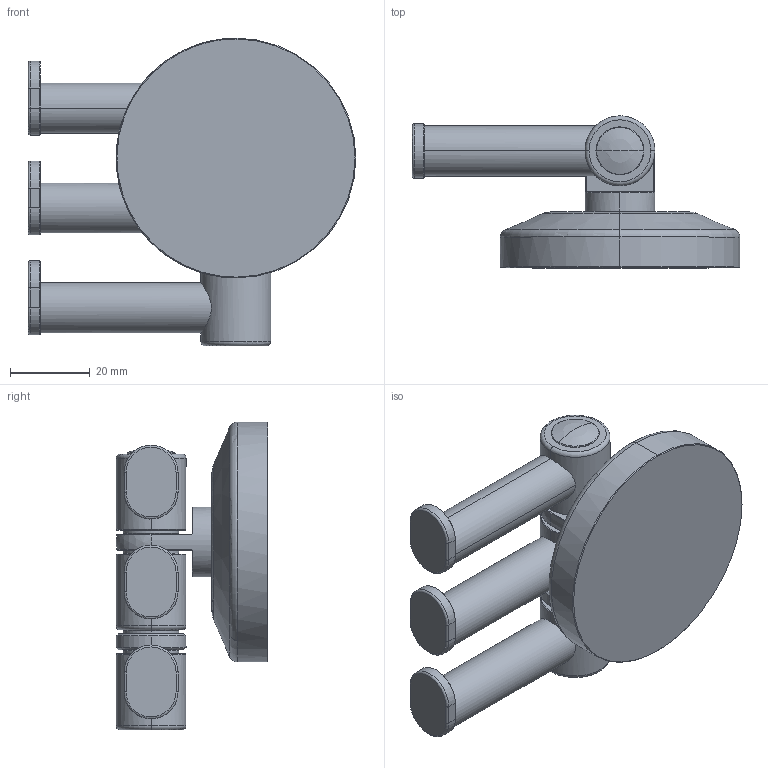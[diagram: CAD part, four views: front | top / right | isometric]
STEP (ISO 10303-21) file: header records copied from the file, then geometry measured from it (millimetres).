
FILE_DESCRIPTION(('THIS FILE CONTAINS SOME STEP INSTANCES'),'1');
FILE_NAME('sta_047.stp','2015-12-07T12:44:54',('UNDEFINED'),('UNDEFINED'),'T-FLEX CAD STEP converter','T-FLEX CAD','');
FILE_SCHEMA(('CONFIG_CONTROL_DESIGN'));
Length unit declared in the file: metre
Products named in the file (4): 3D 鐨飹懤艜_7; 3D 鐨飹懤艜_28; 3D 鐨飹懤艜_33; 3D 鐨飹懤艜_5
Bounding box: 82 x 38 x 77 mm (x, y, z)
Volume: 69449.7 mm3; surface area: 19192.6 mm2
Topology: 4 solids, 4 shells, 149 faces, 322 edges, 187 vertices
Faces by surface type: cone 44, plane 41, cylinder 38, torus 18, sphere 4, bspline 4
Entity records: 4545 total; most frequent: CARTESIAN_POINT 1588, ORIENTED_EDGE 636, DIRECTION 560, EDGE_CURVE 318, AXIS2_PLACEMENT_3D 212, VERTEX_POINT 187, EDGE_LOOP 159, ADVANCED_FACE 149
